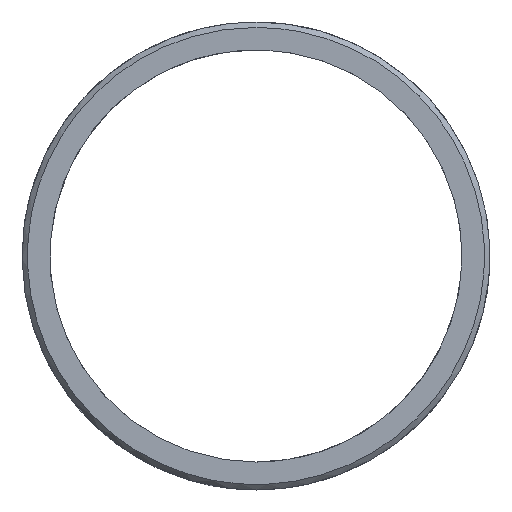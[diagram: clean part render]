
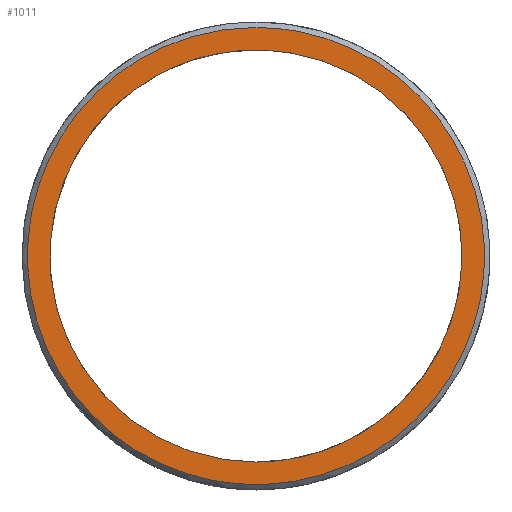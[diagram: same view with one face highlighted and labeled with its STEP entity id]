
A CAD part, front view. The second image highlights one B-rep face of the part: STEP entity #1011.
In plain terms, the highlighted planar face has unit normal (0, -1, 0).
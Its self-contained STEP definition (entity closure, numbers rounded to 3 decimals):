
#3 = CARTESIAN_POINT ( 'NONE',  ( -29.443, 477.004, 43.063 ) ) ;
#7 = CARTESIAN_POINT ( 'NONE',  ( 14.874, 476.999, 17.355 ) ) ;
#15 = CARTESIAN_POINT ( 'NONE',  ( 0., 476.999, 16.513 ) ) ;
#17 = EDGE_CURVE ( 'NONE', #521, #521, #307, .T. ) ;
#60 = CARTESIAN_POINT ( 'NONE',  ( -25.708, 477.006, 57.937 ) ) ;
#74 = CARTESIAN_POINT ( 'NONE',  ( -23.579, 477.001, 25.004 ) ) ;
#80 = CARTESIAN_POINT ( 'NONE',  ( 3.905, 477.009, 72.506 ) ) ;
#86 = CARTESIAN_POINT ( 'NONE',  ( 0., 477.009, 72.506 ) ) ;
#89 = EDGE_CURVE ( 'NONE', #528, #528, #388, .T. ) ;
#141 = CARTESIAN_POINT ( 'NONE',  ( -11.267, 477.009, 70.265 ) ) ;
#159 = CARTESIAN_POINT ( 'NONE',  ( 11.267, 476.999, 15.861 ) ) ;
#164 = CARTESIAN_POINT ( 'NONE',  ( 18.059, 477., 19.483 ) ) ;
#169 = CARTESIAN_POINT ( 'NONE',  ( 20.819, 477., 22.244 ) ) ;
#173 = CARTESIAN_POINT ( 'NONE',  ( 3.904, 476.999, 13.62 ) ) ;
#176 = CARTESIAN_POINT ( 'NONE',  ( 53.1, 476.999, 16.513 ) ) ;
#199 = CARTESIAN_POINT ( 'NONE',  ( 0., 476.999, 16.513 ) ) ;
#208 = CARTESIAN_POINT ( 'NONE',  ( -3.904, 477.009, 72.506 ) ) ;
#214 = CARTESIAN_POINT ( 'NONE',  ( -20.819, 477.008, 63.882 ) ) ;
#231 = CARTESIAN_POINT ( 'NONE',  ( 0., 476.999, 13.62 ) ) ;
#245 = CARTESIAN_POINT ( 'NONE',  ( -27.202, 477.002, 31.796 ) ) ;
#259 = CARTESIAN_POINT ( 'NONE',  ( 0., 477.009, 69.613 ) ) ;
#272 = DIRECTION ( 'NONE',  ( 0., 0., 1. ) ) ;
#286 = CARTESIAN_POINT ( 'NONE',  ( 0., 477.009, 72.506 ) ) ;
#291 = CARTESIAN_POINT ( 'NONE',  ( -14.874, 477.008, 68.771 ) ) ;
#301 = CARTESIAN_POINT ( 'NONE',  ( 25.708, 477.001, 28.189 ) ) ;
#306 = CARTESIAN_POINT ( 'NONE',  ( 29.443, 477.005, 46.967 ) ) ;
#307 = B_SPLINE_CURVE_WITH_KNOTS ( 'NONE', 3,
 ( #286, #208, #698, #141, #291, #937, #214, #537, #60, #890, #810, #962, #3, #385, #562, #245, #879, #74, #411, #885, #641, #572, #476, #629, #231, #173, #1033, #159, #7, #164, #169, #394, #301, #814, #493, #718, #469, #306, #481, #950, #555, #549, #1026, #804, #798, #724, #487, #80, #86 ),
 .UNSPECIFIED., .T., .F.,
 ( 4, 3, 3, 3, 3, 3, 3, 3, 3, 3, 3, 3, 3, 3, 3, 3, 4 ),
 ( 0., 0.063, 0.125, 0.188, 0.25, 0.313, 0.375, 0.438, 0.5, 0.563, 0.625, 0.688, 0.75, 0.813, 0.875, 0.938, 1. ),
 .UNSPECIFIED. ) ;
#348 = FACE_BOUND ( 'NONE', #1020, .T. ) ;
#385 = CARTESIAN_POINT ( 'NONE',  ( -29.443, 477.003, 39.159 ) ) ;
#388 =( BOUNDED_CURVE ( )  B_SPLINE_CURVE ( 3, ( #15, #898, #832, #259, #827, #176, #992 ),
 .UNSPECIFIED., .T., .F. ) 
 B_SPLINE_CURVE_WITH_KNOTS ( ( 4, 3, 4 ),
 ( 0., 3.142, 6.283 ),
 .UNSPECIFIED. ) 
 CURVE ( )  GEOMETRIC_REPRESENTATION_ITEM ( )  RATIONAL_B_SPLINE_CURVE ( ( 1., 0.333, 0.333, 1., 0.333, 0.333, 1. ) ) 
 REPRESENTATION_ITEM ( '' )  );
#394 = CARTESIAN_POINT ( 'NONE',  ( 23.58, 477.001, 25.004 ) ) ;
#411 = CARTESIAN_POINT ( 'NONE',  ( -20.819, 477., 22.244 ) ) ;
#450 = EDGE_LOOP ( 'NONE', ( #585 ) ) ;
#469 = CARTESIAN_POINT ( 'NONE',  ( 29.443, 477.004, 43.063 ) ) ;
#476 = CARTESIAN_POINT ( 'NONE',  ( -7.661, 476.999, 14.367 ) ) ;
#481 = CARTESIAN_POINT ( 'NONE',  ( 28.695, 477.005, 50.724 ) ) ;
#487 = CARTESIAN_POINT ( 'NONE',  ( 7.66, 477.009, 71.759 ) ) ;
#493 = CARTESIAN_POINT ( 'NONE',  ( 28.696, 477.003, 35.402 ) ) ;
#521 = VERTEX_POINT ( 'NONE', #597 ) ;
#528 = VERTEX_POINT ( 'NONE', #199 ) ;
#537 = CARTESIAN_POINT ( 'NONE',  ( -23.58, 477.007, 61.122 ) ) ;
#549 = CARTESIAN_POINT ( 'NONE',  ( 23.58, 477.007, 61.122 ) ) ;
#555 = CARTESIAN_POINT ( 'NONE',  ( 25.708, 477.006, 57.937 ) ) ;
#562 = CARTESIAN_POINT ( 'NONE',  ( -28.695, 477.003, 35.402 ) ) ;
#572 = CARTESIAN_POINT ( 'NONE',  ( -11.267, 476.999, 15.861 ) ) ;
#585 = ORIENTED_EDGE ( 'NONE', *, *, #17, .T. ) ;
#597 = CARTESIAN_POINT ( 'NONE',  ( 0., 477.009, 72.506 ) ) ;
#629 = CARTESIAN_POINT ( 'NONE',  ( -3.904, 476.999, 13.62 ) ) ;
#641 = CARTESIAN_POINT ( 'NONE',  ( -14.874, 476.999, 17.355 ) ) ;
#678 = CARTESIAN_POINT ( 'NONE',  ( 171.524, 477.009, 73.213 ) ) ;
#698 = CARTESIAN_POINT ( 'NONE',  ( -7.661, 477.009, 71.758 ) ) ;
#718 = CARTESIAN_POINT ( 'NONE',  ( 29.443, 477.003, 39.159 ) ) ;
#724 = CARTESIAN_POINT ( 'NONE',  ( 11.267, 477.009, 70.265 ) ) ;
#758 = FACE_OUTER_BOUND ( 'NONE', #450, .T. ) ;
#798 = CARTESIAN_POINT ( 'NONE',  ( 14.874, 477.008, 68.77 ) ) ;
#804 = CARTESIAN_POINT ( 'NONE',  ( 18.059, 477.008, 66.643 ) ) ;
#810 = CARTESIAN_POINT ( 'NONE',  ( -28.696, 477.005, 50.724 ) ) ;
#814 = CARTESIAN_POINT ( 'NONE',  ( 27.202, 477.002, 31.796 ) ) ;
#827 = CARTESIAN_POINT ( 'NONE',  ( 53.1, 477.009, 69.613 ) ) ;
#828 = ORIENTED_EDGE ( 'NONE', *, *, #89, .T. ) ;
#832 = CARTESIAN_POINT ( 'NONE',  ( -53.1, 477.009, 69.613 ) ) ;
#879 = CARTESIAN_POINT ( 'NONE',  ( -25.708, 477.001, 28.189 ) ) ;
#885 = CARTESIAN_POINT ( 'NONE',  ( -18.059, 477., 19.483 ) ) ;
#890 = CARTESIAN_POINT ( 'NONE',  ( -27.202, 477.006, 54.33 ) ) ;
#898 = CARTESIAN_POINT ( 'NONE',  ( -53.1, 476.999, 16.513 ) ) ;
#922 = AXIS2_PLACEMENT_3D ( 'NONE', #678, #996, #272 ) ;
#937 = CARTESIAN_POINT ( 'NONE',  ( -18.059, 477.008, 66.642 ) ) ;
#950 = CARTESIAN_POINT ( 'NONE',  ( 27.202, 477.006, 54.33 ) ) ;
#962 = CARTESIAN_POINT ( 'NONE',  ( -29.443, 477.005, 46.967 ) ) ;
#992 = CARTESIAN_POINT ( 'NONE',  ( 0., 476.999, 16.513 ) ) ;
#996 = DIRECTION ( 'NONE',  ( 0., 1., 0. ) ) ;
#1000 = PLANE ( 'NONE',  #922 ) ;
#1011 = ADVANCED_FACE ( 'NONE', ( #758, #348 ), #1000, .F. ) ;
#1020 = EDGE_LOOP ( 'NONE', ( #828 ) ) ;
#1026 = CARTESIAN_POINT ( 'NONE',  ( 20.819, 477.008, 63.882 ) ) ;
#1033 = CARTESIAN_POINT ( 'NONE',  ( 7.661, 476.999, 14.367 ) ) ;
